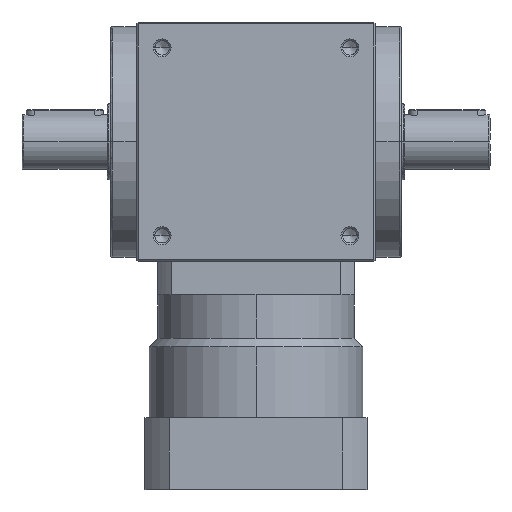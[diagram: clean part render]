
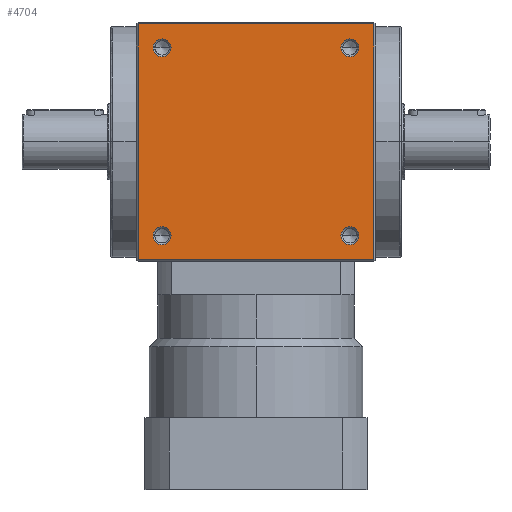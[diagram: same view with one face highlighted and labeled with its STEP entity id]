
A CAD part, top view. The second image highlights one B-rep face of the part: STEP entity #4704.
In plain terms, the highlighted planar face has unit normal (0, 0, 1).
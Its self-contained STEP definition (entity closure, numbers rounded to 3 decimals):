
#186 = DIRECTION ( 'NONE',  ( 0., -1., 0. ) ) ;
#234 = CARTESIAN_POINT ( 'NONE',  ( 69., 0., 70. ) ) ;
#497 = ORIENTED_EDGE ( 'NONE', *, *, #4889, .F. ) ;
#601 = CARTESIAN_POINT ( 'NONE',  ( 49.75, 55., 70. ) ) ;
#674 = EDGE_CURVE ( 'NONE', #12384, #1707, #4527, .T. ) ;
#712 = ORIENTED_EDGE ( 'NONE', *, *, #674, .F. ) ;
#746 = AXIS2_PLACEMENT_3D ( 'NONE', #5379, #12478, #6391 ) ;
#754 = CARTESIAN_POINT ( 'NONE',  ( 0., 69., 70. ) ) ;
#778 = CARTESIAN_POINT ( 'NONE',  ( -60.25, -55., 70. ) ) ;
#826 = LINE ( 'NONE', #754, #5001 ) ;
#864 = CARTESIAN_POINT ( 'NONE',  ( -69., -69., 70. ) ) ;
#1052 = VERTEX_POINT ( 'NONE', #3679 ) ;
#1096 = EDGE_CURVE ( 'NONE', #9596, #1052, #8540, .T. ) ;
#1111 = PLANE ( 'NONE',  #9029 ) ;
#1184 = ORIENTED_EDGE ( 'NONE', *, *, #12925, .T. ) ;
#1199 = DIRECTION ( 'NONE',  ( 0., 0., 1. ) ) ;
#1241 = AXIS2_PLACEMENT_3D ( 'NONE', #7221, #1199, #8246 ) ;
#1483 = CARTESIAN_POINT ( 'NONE',  ( 49.75, -55., 70. ) ) ;
#1648 = CARTESIAN_POINT ( 'NONE',  ( -55., -55., 70. ) ) ;
#1697 = DIRECTION ( 'NONE',  ( 1., 0., 0. ) ) ;
#1707 = VERTEX_POINT ( 'NONE', #9176 ) ;
#1742 = AXIS2_PLACEMENT_3D ( 'NONE', #2748, #9865, #3746 ) ;
#1762 = CIRCLE ( 'NONE', #12547, 5.25 ) ;
#1771 = DIRECTION ( 'NONE',  ( 0., 0., 1. ) ) ;
#1811 = CARTESIAN_POINT ( 'NONE',  ( -55., 55., 70. ) ) ;
#1834 = EDGE_LOOP ( 'NONE', ( #10372, #5973 ) ) ;
#1856 = VERTEX_POINT ( 'NONE', #601 ) ;
#1900 = VERTEX_POINT ( 'NONE', #6159 ) ;
#2432 = VERTEX_POINT ( 'NONE', #864 ) ;
#2630 = DIRECTION ( 'NONE',  ( 1., 0., 0. ) ) ;
#2731 = EDGE_LOOP ( 'NONE', ( #10062, #9013 ) ) ;
#2748 = CARTESIAN_POINT ( 'NONE',  ( 55., 55., 70. ) ) ;
#2752 = LINE ( 'NONE', #10548, #2763 ) ;
#2763 = VECTOR ( 'NONE', #3459, 1000. ) ;
#3047 = CIRCLE ( 'NONE', #10890, 5.25 ) ;
#3303 = CARTESIAN_POINT ( 'NONE',  ( 55., 55., 70. ) ) ;
#3459 = DIRECTION ( 'NONE',  ( -1., 0., 0. ) ) ;
#3498 = ORIENTED_EDGE ( 'NONE', *, *, #5330, .F. ) ;
#3679 = CARTESIAN_POINT ( 'NONE',  ( -49.75, 55., 70. ) ) ;
#3746 = DIRECTION ( 'NONE',  ( 1., 0., 0. ) ) ;
#3772 = DIRECTION ( 'NONE',  ( -1., 0., 0. ) ) ;
#3874 = EDGE_CURVE ( 'NONE', #1052, #9596, #4278, .T. ) ;
#4153 = DIRECTION ( 'NONE',  ( 0., 0., 1. ) ) ;
#4278 = CIRCLE ( 'NONE', #746, 5.25 ) ;
#4300 = DIRECTION ( 'NONE',  ( 1., 0., 0. ) ) ;
#4527 = LINE ( 'NONE', #234, #11108 ) ;
#4581 = EDGE_CURVE ( 'NONE', #10744, #1856, #11461, .T. ) ;
#4704 = ADVANCED_FACE ( 'NONE', ( #9499, #9593, #9486, #9580, #9459 ), #1111, .F. ) ;
#4739 = EDGE_CURVE ( 'NONE', #7795, #9190, #9110, .T. ) ;
#4800 = EDGE_CURVE ( 'NONE', #1856, #10744, #8170, .T. ) ;
#4889 = EDGE_CURVE ( 'NONE', #9190, #7795, #7684, .T. ) ;
#5001 = VECTOR ( 'NONE', #3772, 1000. ) ;
#5115 = CARTESIAN_POINT ( 'NONE',  ( 60.25, -55., 70. ) ) ;
#5120 = CARTESIAN_POINT ( 'NONE',  ( 0., 0., 70. ) ) ;
#5128 = CARTESIAN_POINT ( 'NONE',  ( -69., 0., 70. ) ) ;
#5265 = CARTESIAN_POINT ( 'NONE',  ( 60.25, 55., 70. ) ) ;
#5330 = EDGE_CURVE ( 'NONE', #1707, #2432, #2752, .T. ) ;
#5379 = CARTESIAN_POINT ( 'NONE',  ( -55., 55., 70. ) ) ;
#5426 = DIRECTION ( 'NONE',  ( 0., 0., 1. ) ) ;
#5680 = AXIS2_PLACEMENT_3D ( 'NONE', #1811, #1771, #1697 ) ;
#5913 = EDGE_LOOP ( 'NONE', ( #3498, #712, #1184, #6966 ) ) ;
#5973 = ORIENTED_EDGE ( 'NONE', *, *, #1096, .F. ) ;
#6126 = DIRECTION ( 'NONE',  ( -1., 0., 0. ) ) ;
#6159 = CARTESIAN_POINT ( 'NONE',  ( -49.75, -55., 70. ) ) ;
#6160 = AXIS2_PLACEMENT_3D ( 'NONE', #11524, #5426, #12531 ) ;
#6202 = EDGE_CURVE ( 'NONE', #6576, #1900, #1762, .T. ) ;
#6391 = DIRECTION ( 'NONE',  ( 1., 0., 0. ) ) ;
#6576 = VERTEX_POINT ( 'NONE', #778 ) ;
#6708 = AXIS2_PLACEMENT_3D ( 'NONE', #3303, #10399, #4300 ) ;
#6966 = ORIENTED_EDGE ( 'NONE', *, *, #7654, .F. ) ;
#7221 = CARTESIAN_POINT ( 'NONE',  ( 55., -55., 70. ) ) ;
#7493 = ORIENTED_EDGE ( 'NONE', *, *, #10057, .F. ) ;
#7654 = EDGE_CURVE ( 'NONE', #2432, #10115, #7942, .T. ) ;
#7684 = CIRCLE ( 'NONE', #6160, 5.25 ) ;
#7795 = VERTEX_POINT ( 'NONE', #1483 ) ;
#7942 = LINE ( 'NONE', #5128, #10279 ) ;
#8137 = ORIENTED_EDGE ( 'NONE', *, *, #6202, .F. ) ;
#8170 = CIRCLE ( 'NONE', #6708, 5.25 ) ;
#8246 = DIRECTION ( 'NONE',  ( 1., 0., 0. ) ) ;
#8540 = CIRCLE ( 'NONE', #5680, 5.25 ) ;
#8705 = DIRECTION ( 'NONE',  ( 0., 0., 1. ) ) ;
#9013 = ORIENTED_EDGE ( 'NONE', *, *, #4800, .F. ) ;
#9029 = AXIS2_PLACEMENT_3D ( 'NONE', #5120, #12224, #6126 ) ;
#9110 = CIRCLE ( 'NONE', #1241, 5.25 ) ;
#9176 = CARTESIAN_POINT ( 'NONE',  ( 69., -69., 70. ) ) ;
#9190 = VERTEX_POINT ( 'NONE', #5115 ) ;
#9459 = FACE_OUTER_BOUND ( 'NONE', #5913, .T. ) ;
#9486 = FACE_BOUND ( 'NONE', #12486, .T. ) ;
#9499 = FACE_BOUND ( 'NONE', #1834, .T. ) ;
#9580 = FACE_BOUND ( 'NONE', #11893, .T. ) ;
#9593 = FACE_BOUND ( 'NONE', #2731, .T. ) ;
#9596 = VERTEX_POINT ( 'NONE', #9711 ) ;
#9711 = CARTESIAN_POINT ( 'NONE',  ( -60.25, 55., 70. ) ) ;
#9865 = DIRECTION ( 'NONE',  ( 0., 0., 1. ) ) ;
#10057 = EDGE_CURVE ( 'NONE', #1900, #6576, #3047, .T. ) ;
#10062 = ORIENTED_EDGE ( 'NONE', *, *, #4581, .F. ) ;
#10115 = VERTEX_POINT ( 'NONE', #10379 ) ;
#10263 = CARTESIAN_POINT ( 'NONE',  ( -55., -55., 70. ) ) ;
#10279 = VECTOR ( 'NONE', #12193, 1000. ) ;
#10372 = ORIENTED_EDGE ( 'NONE', *, *, #3874, .F. ) ;
#10379 = CARTESIAN_POINT ( 'NONE',  ( -69., 69., 70. ) ) ;
#10399 = DIRECTION ( 'NONE',  ( 0., 0., 1. ) ) ;
#10548 = CARTESIAN_POINT ( 'NONE',  ( 0., -69., 70. ) ) ;
#10744 = VERTEX_POINT ( 'NONE', #5265 ) ;
#10890 = AXIS2_PLACEMENT_3D ( 'NONE', #10263, #4153, #11237 ) ;
#10994 = CARTESIAN_POINT ( 'NONE',  ( 69., 69., 70. ) ) ;
#11108 = VECTOR ( 'NONE', #186, 1000. ) ;
#11237 = DIRECTION ( 'NONE',  ( 1., 0., 0. ) ) ;
#11461 = CIRCLE ( 'NONE', #1742, 5.25 ) ;
#11524 = CARTESIAN_POINT ( 'NONE',  ( 55., -55., 70. ) ) ;
#11893 = EDGE_LOOP ( 'NONE', ( #497, #12281 ) ) ;
#12193 = DIRECTION ( 'NONE',  ( 0., 1., 0. ) ) ;
#12224 = DIRECTION ( 'NONE',  ( 0., 0., -1. ) ) ;
#12281 = ORIENTED_EDGE ( 'NONE', *, *, #4739, .F. ) ;
#12384 = VERTEX_POINT ( 'NONE', #10994 ) ;
#12478 = DIRECTION ( 'NONE',  ( 0., 0., 1. ) ) ;
#12486 = EDGE_LOOP ( 'NONE', ( #7493, #8137 ) ) ;
#12531 = DIRECTION ( 'NONE',  ( 1., 0., 0. ) ) ;
#12547 = AXIS2_PLACEMENT_3D ( 'NONE', #1648, #8705, #2630 ) ;
#12925 = EDGE_CURVE ( 'NONE', #12384, #10115, #826, .T. ) ;
